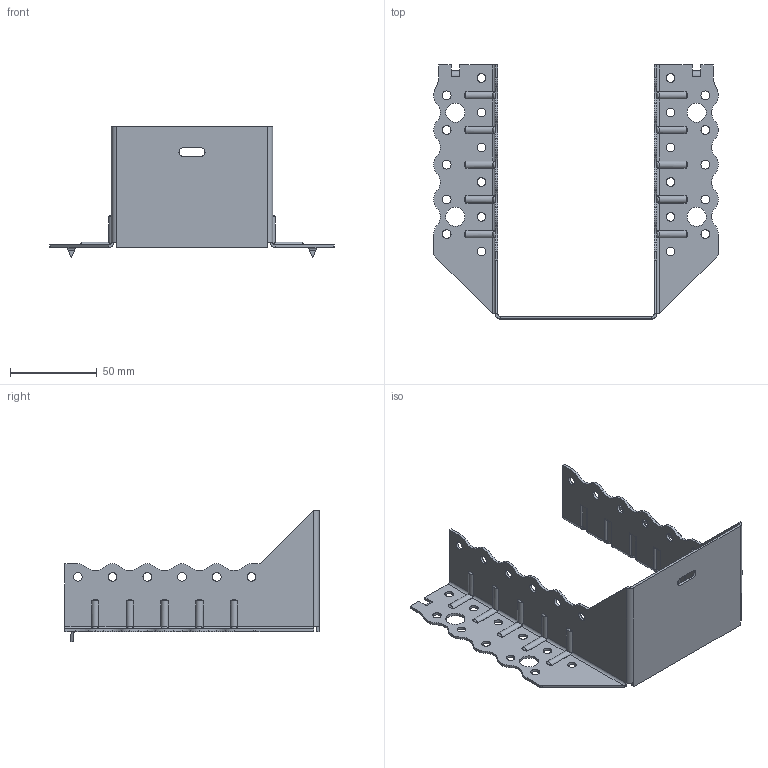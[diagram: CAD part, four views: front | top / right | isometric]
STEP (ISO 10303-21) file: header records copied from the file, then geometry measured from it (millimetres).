
FILE_DESCRIPTION (( 'STEP AP203' ), '1' );
FILE_NAME ('30621TOP.STEP', '2021-04-07T13:43:56', ( '' ), ( '' ), 'SwSTEP 2.0', 'SolidWorks 2013', '' );
FILE_SCHEMA (( 'CONFIG_CONTROL_DESIGN' ));
Length unit declared in the file: millimetre
Products named in the file (1): 30621TOP
Bounding box: 164 x 146.5 x 76 mm (x, y, z)
Volume: 38502.5 mm3; surface area: 54771 mm2
Topology: 1 solids, 1 shells, 428 faces, 1154 edges, 728 vertices
Faces by surface type: cylinder 269, plane 119, torus 20, bspline 20
Entity records: 15880 total; most frequent: CARTESIAN_POINT 5007, ORIENTED_EDGE 2308, DIRECTION 2228, EDGE_CURVE 1154, AXIS2_PLACEMENT_3D 813, VERTEX_POINT 728, VECTOR 602, LINE 602
